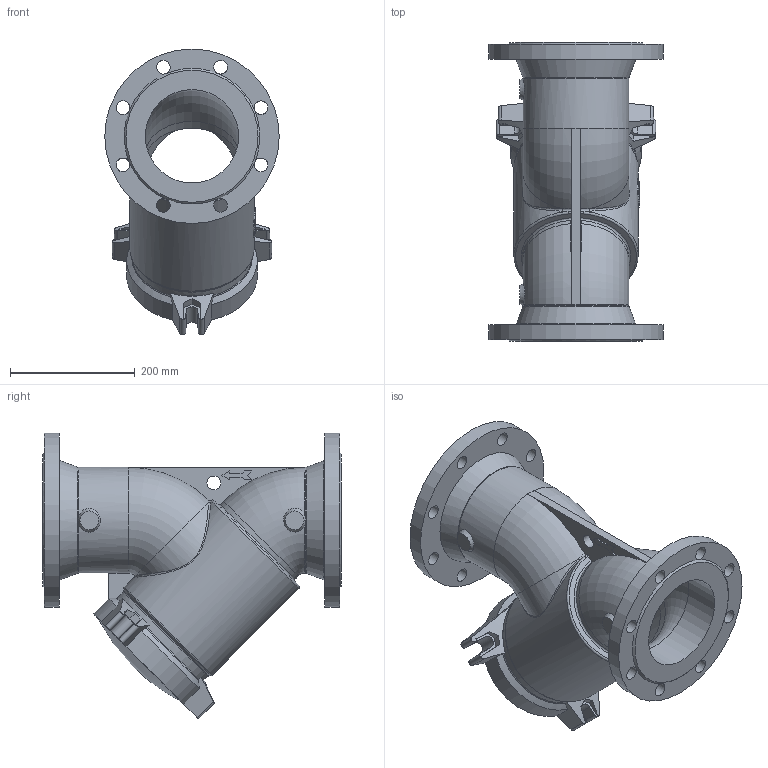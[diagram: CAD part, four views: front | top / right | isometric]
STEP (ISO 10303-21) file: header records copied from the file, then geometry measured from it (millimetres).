
FILE_DESCRIPTION(('STEP AP203'), '1');
FILE_NAME('Ôèëüòð ñåò÷àòûé ôëàíöåâûé 021Y.M DN150 PN10_PN16', '', ('UNSPECIFIED'), ('UNSPECIFIED'), 'ASCON STEP Converter 1.6', 'ASCON Math Kernel', '');
FILE_SCHEMA(('CONFIG_CONTROL_DESIGN'));
Length unit declared in the file: millimetre
Bounding box: 280 x 480 x 458.99 mm (x, y, z)
Volume: 6663839.4 mm3; surface area: 947398.8 mm2
Topology: 1 solids, 1 shells, 183 faces, 518 edges, 334 vertices
Faces by surface type: plane 87, cylinder 55, torus 17, cone 14, bspline 9, sphere 1
Full cylindrical faces by diameter (mm): 22 x17, 150 x4, 165 x2, 170 x1, 178 x1, 280 x2
Entity records: 11872 total; most frequent: CARTESIAN_POINT 5835, ORIENTED_EDGE 940, DIRECTION 877, EDGE_CURVE 470, AXIS2_PLACEMENT_3D 342, VERTEX_POINT 328, EDGE_LOOP 270, FACE_BOUND 218
